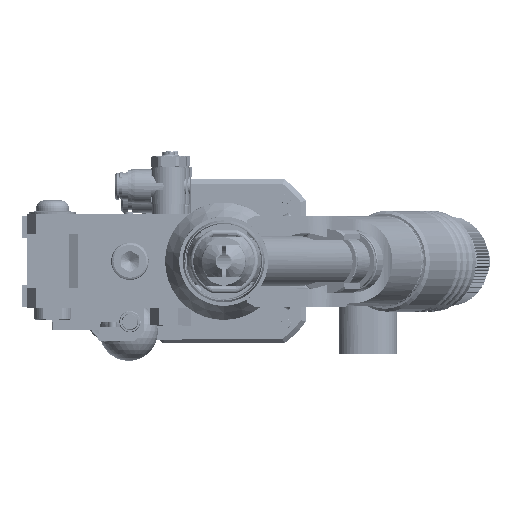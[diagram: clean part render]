
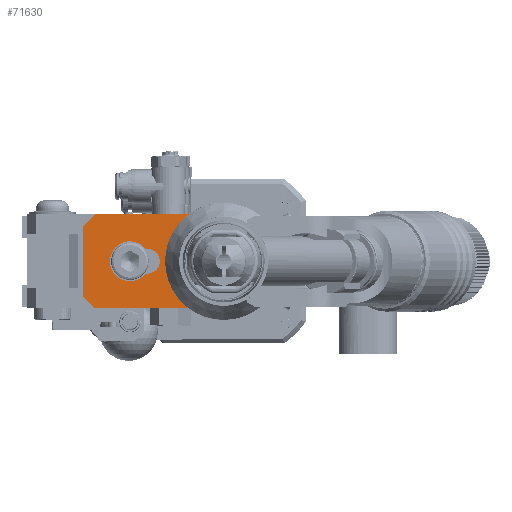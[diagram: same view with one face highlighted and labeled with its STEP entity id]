
A CAD part, left-side view. The second image highlights one B-rep face of the part: STEP entity #71630.
In plain terms, the highlighted planar face has unit normal (-1, 0, 0).
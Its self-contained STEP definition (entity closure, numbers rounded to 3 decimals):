
#3705=LINE($,#115182,#7751);
#3710=LINE($,#115191,#7756);
#3717=LINE($,#115217,#7763);
#5541=LINE($,#129375,#9587);
#5551=LINE($,#129399,#9597);
#5553=LINE($,#129403,#9599);
#5560=LINE($,#129418,#9606);
#5565=LINE($,#129429,#9611);
#5571=LINE($,#129446,#9617);
#7751=VECTOR($,#88969,7.071);
#7756=VECTOR($,#88976,30.);
#7763=VECTOR($,#89005,7.071);
#9587=VECTOR($,#96765,41.);
#9597=VECTOR($,#96783,0.815);
#9599=VECTOR($,#96787,3.029);
#9606=VECTOR($,#96802,3.029);
#9611=VECTOR($,#96815,41.);
#9617=VECTOR($,#96833,0.815);
#12474=PLANE($,#78924);
#14108=FACE_BOUND($,#24757,.T.);
#19164=FACE_OUTER_BOUND($,#24756,.T.);
#24756=EDGE_LOOP($,(#61260,#61261,#61262,#61263,#61264,#61265,#61266,#61267));
#24757=EDGE_LOOP($,(#61268,#61269,#61270,#61271));
#27067=CIRCLE($,#75737,22.);
#28456=CIRCLE($,#78909,5.25);
#28461=CIRCLE($,#78925,8.5);
#31974=VERTEX_POINT($,#114465);
#31977=VERTEX_POINT($,#114470);
#32133=VERTEX_POINT($,#115179);
#32134=VERTEX_POINT($,#115181);
#32136=VERTEX_POINT($,#115187);
#32145=VERTEX_POINT($,#115216);
#34776=VERTEX_POINT($,#129374);
#34780=VERTEX_POINT($,#129384);
#34781=VERTEX_POINT($,#129386);
#34786=VERTEX_POINT($,#129398);
#34787=VERTEX_POINT($,#129402);
#34798=VERTEX_POINT($,#129444);
#39775=EDGE_CURVE($,#31977,#31974,#27067,.T.);
#39988=EDGE_CURVE($,#32133,#32134,#3705,.T.);
#39993=EDGE_CURVE($,#32134,#32136,#3710,.T.);
#40006=EDGE_CURVE($,#32136,#32145,#3717,.T.);
#43858=EDGE_CURVE($,#32145,#34776,#5541,.T.);
#43864=EDGE_CURVE($,#34781,#34780,#28456,.T.);
#43870=EDGE_CURVE($,#34786,#34781,#5551,.T.);
#43872=EDGE_CURVE($,#31974,#34787,#5553,.T.);
#43880=EDGE_CURVE($,#34776,#31977,#5560,.T.);
#43886=EDGE_CURVE($,#34787,#32133,#5565,.T.);
#43894=EDGE_CURVE($,#34798,#34786,#28461,.T.);
#43895=EDGE_CURVE($,#34780,#34798,#5571,.T.);
#61260=ORIENTED_EDGE($,*,*,#43872,.F.);
#61261=ORIENTED_EDGE($,*,*,#39775,.F.);
#61262=ORIENTED_EDGE($,*,*,#43880,.F.);
#61263=ORIENTED_EDGE($,*,*,#43858,.F.);
#61264=ORIENTED_EDGE($,*,*,#40006,.F.);
#61265=ORIENTED_EDGE($,*,*,#39993,.F.);
#61266=ORIENTED_EDGE($,*,*,#39988,.F.);
#61267=ORIENTED_EDGE($,*,*,#43886,.F.);
#61268=ORIENTED_EDGE($,*,*,#43894,.T.);
#61269=ORIENTED_EDGE($,*,*,#43870,.T.);
#61270=ORIENTED_EDGE($,*,*,#43864,.T.);
#61271=ORIENTED_EDGE($,*,*,#43895,.T.);
#71630=ADVANCED_FACE($,(#19164,#14108),#12474,.T.);
#75737=AXIS2_PLACEMENT_3D($,#114472,#88497,#88498);
#78909=AXIS2_PLACEMENT_3D($,#129387,#96774,#96775);
#78924=AXIS2_PLACEMENT_3D($,#129443,#96829,#96830);
#78925=AXIS2_PLACEMENT_3D($,#129445,#96831,#96832);
#88497=DIRECTION('center_axis',(-1.,0.,0.));
#88498=DIRECTION('ref_axis',(0.,0.,
1.));
#88969=DIRECTION($,(0.,0.707,0.707));
#88976=DIRECTION($,(0.,0.,1.));
#89005=DIRECTION($,(0.,-0.707,0.707));
#96765=DIRECTION($,(0.,-1.,0.));
#96774=DIRECTION('center_axis',(1.,0.,0.));
#96775=DIRECTION('ref_axis',(0.,0.,
-1.));
#96783=DIRECTION($,(0.,-1.,0.));
#96787=DIRECTION($,(0.,0.,-1.));
#96802=DIRECTION($,(0.,0.,-1.));
#96815=DIRECTION($,(0.,1.,0.));
#96829=DIRECTION('center_axis',(-1.,0.,0.));
#96830=DIRECTION('ref_axis',(0.,0.,1.));
#96831=DIRECTION('center_axis',(1.,0.,0.));
#96832=DIRECTION('ref_axis',(0.,0.,
1.));
#96833=DIRECTION($,(0.,1.,0.));
#114465=CARTESIAN_POINT('',(-454.162,168.619,-45.602));
#114470=CARTESIAN_POINT('',(-454.162,168.619,-11.661));
#114472=CARTESIAN_POINT('Origin',(-454.162,154.619,-28.632));
#115179=CARTESIAN_POINT('',(-454.162,209.619,-48.632));
#115181=CARTESIAN_POINT('',(-454.162,214.619,-43.632));
#115182=CARTESIAN_POINT($,(-454.162,209.619,-48.632));
#115187=CARTESIAN_POINT('',(-454.162,214.619,-13.632));
#115191=CARTESIAN_POINT($,(-454.162,214.619,-43.632));
#115216=CARTESIAN_POINT('',(-454.162,209.619,-8.632));
#115217=CARTESIAN_POINT($,(-454.162,214.619,-13.632));
#129374=CARTESIAN_POINT('',(-454.162,168.619,-8.632));
#129375=CARTESIAN_POINT($,(-454.162,209.619,-8.632));
#129384=CARTESIAN_POINT('',(-454.162,187.119,-33.882));
#129386=CARTESIAN_POINT('',(-454.162,187.119,-23.382));
#129387=CARTESIAN_POINT('Origin',(-454.162,187.119,-28.632));
#129398=CARTESIAN_POINT('',(-454.162,187.934,-23.382));
#129399=CARTESIAN_POINT($,(-454.162,187.934,-23.382));
#129402=CARTESIAN_POINT('',(-454.162,168.619,-48.632));
#129403=CARTESIAN_POINT($,(-454.162,168.619,-45.602));
#129418=CARTESIAN_POINT($,(-454.162,168.619,-8.632));
#129429=CARTESIAN_POINT($,(-454.162,168.619,-48.632));
#129443=CARTESIAN_POINT('Origin',(-454.162,191.196,-28.632));
#129444=CARTESIAN_POINT('',(-454.162,187.934,-33.882));
#129445=CARTESIAN_POINT('Origin',(-454.162,194.619,-28.632));
#129446=CARTESIAN_POINT($,(-454.162,187.119,-33.882));
